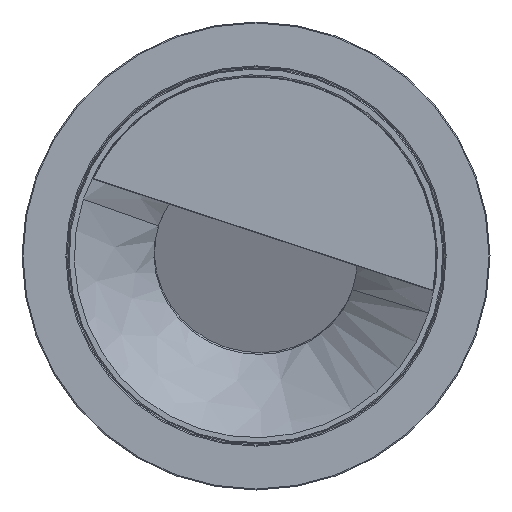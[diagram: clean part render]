
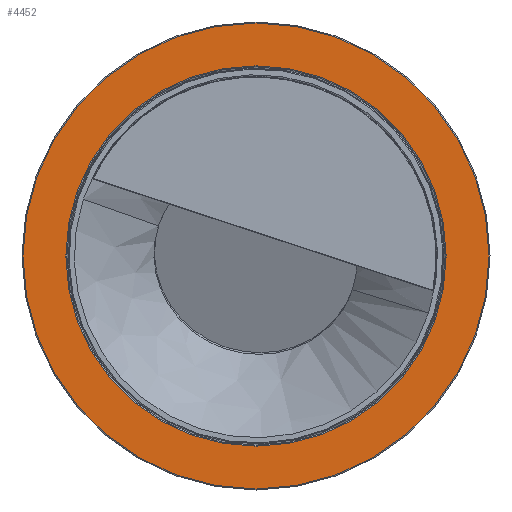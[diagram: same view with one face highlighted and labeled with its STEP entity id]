
A CAD part, front view. The second image highlights one B-rep face of the part: STEP entity #4452.
In plain terms, the highlighted planar face has unit normal (0, -1, 0).
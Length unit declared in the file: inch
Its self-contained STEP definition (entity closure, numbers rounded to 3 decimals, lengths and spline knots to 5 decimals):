
#1370 = CARTESIAN_POINT ( 'NONE',  ( -1.85039, 0., 0. ) ) ;
#1451 = CARTESIAN_POINT ( 'NONE',  ( 0., 0., 0. ) ) ;
#1597 = VERTEX_POINT ( 'NONE', #35936 ) ;
#2660 = CARTESIAN_POINT ( 'NONE',  ( 0., 0., 0. ) ) ;
#4452 = ADVANCED_FACE ( 'NONE', ( #30567, #20620 ), #14591, .T. ) ;
#5342 = DIRECTION ( 'NONE',  ( 0., 0., -1. ) ) ;
#7843 = CIRCLE ( 'NONE', #17533, 1.84252 ) ;
#7964 = EDGE_LOOP ( 'NONE', ( #10949, #20382 ) ) ;
#8855 = AXIS2_PLACEMENT_3D ( 'NONE', #1370, #27769, #11312 ) ;
#10949 = ORIENTED_EDGE ( 'NONE', *, *, #31044, .T. ) ;
#11312 = DIRECTION ( 'NONE',  ( 0., 0., -1. ) ) ;
#11565 = DIRECTION ( 'NONE',  ( 0., 0., -1. ) ) ;
#12411 = DIRECTION ( 'NONE',  ( 0., 1., 0. ) ) ;
#14077 = CIRCLE ( 'NONE', #38905, 1.50367 ) ;
#14591 = PLANE ( 'NONE',  #8855 ) ;
#14890 = DIRECTION ( 'NONE',  ( 0., -1., 0. ) ) ;
#16664 = CARTESIAN_POINT ( 'NONE',  ( 0., 0., 1.84252 ) ) ;
#16858 = VERTEX_POINT ( 'NONE', #17048 ) ;
#17048 = CARTESIAN_POINT ( 'NONE',  ( 0., 0., 1.50367 ) ) ;
#17533 = AXIS2_PLACEMENT_3D ( 'NONE', #31664, #20856, #38350 ) ;
#18966 = CIRCLE ( 'NONE', #35475, 1.84252 ) ;
#20312 = EDGE_LOOP ( 'NONE', ( #30151, #36076 ) ) ;
#20382 = ORIENTED_EDGE ( 'NONE', *, *, #31810, .T. ) ;
#20620 = FACE_OUTER_BOUND ( 'NONE', #20312, .T. ) ;
#20856 = DIRECTION ( 'NONE',  ( 0., -1., 0. ) ) ;
#21003 = CIRCLE ( 'NONE', #36177, 1.50367 ) ;
#24998 = CARTESIAN_POINT ( 'NONE',  ( 0., 0., 0. ) ) ;
#25609 = DIRECTION ( 'NONE',  ( 0., 0., -1. ) ) ;
#27769 = DIRECTION ( 'NONE',  ( 0., -1., 0. ) ) ;
#28864 = CARTESIAN_POINT ( 'NONE',  ( 0., 0., -1.84252 ) ) ;
#29945 = VERTEX_POINT ( 'NONE', #16664 ) ;
#30151 = ORIENTED_EDGE ( 'NONE', *, *, #31582, .T. ) ;
#30567 = FACE_BOUND ( 'NONE', #7964, .T. ) ;
#30945 = EDGE_CURVE ( 'NONE', #29945, #39525, #7843, .T. ) ;
#31044 = EDGE_CURVE ( 'NONE', #1597, #16858, #14077, .T. ) ;
#31582 = EDGE_CURVE ( 'NONE', #39525, #29945, #18966, .T. ) ;
#31664 = CARTESIAN_POINT ( 'NONE',  ( 0., 0., 0. ) ) ;
#31810 = EDGE_CURVE ( 'NONE', #16858, #1597, #21003, .T. ) ;
#34474 = DIRECTION ( 'NONE',  ( 0., 1., 0. ) ) ;
#35475 = AXIS2_PLACEMENT_3D ( 'NONE', #1451, #14890, #5342 ) ;
#35936 = CARTESIAN_POINT ( 'NONE',  ( 0., 0., -1.50367 ) ) ;
#36076 = ORIENTED_EDGE ( 'NONE', *, *, #30945, .T. ) ;
#36177 = AXIS2_PLACEMENT_3D ( 'NONE', #24998, #34474, #11565 ) ;
#38350 = DIRECTION ( 'NONE',  ( 0., 0., -1. ) ) ;
#38905 = AXIS2_PLACEMENT_3D ( 'NONE', #2660, #12411, #25609 ) ;
#39525 = VERTEX_POINT ( 'NONE', #28864 ) ;
